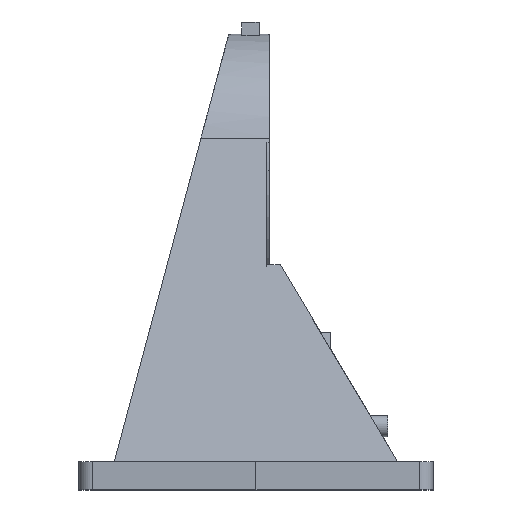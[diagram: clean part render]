
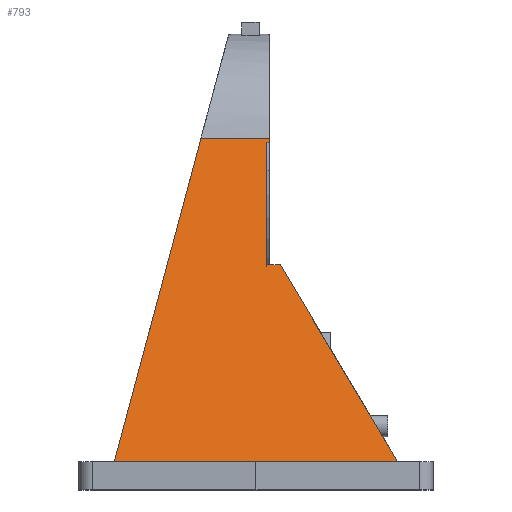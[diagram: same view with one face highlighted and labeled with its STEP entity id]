
A CAD part, front view. The second image highlights one B-rep face of the part: STEP entity #793.
In plain terms, the highlighted planar face has unit normal (0, -0.971, 0.241).
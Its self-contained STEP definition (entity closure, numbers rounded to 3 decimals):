
#33 = EDGE_CURVE ( 'NONE', #34, #85, #1716, .T. ) ;
#34 = VERTEX_POINT ( 'NONE', #1712 ) ;
#59 = EDGE_CURVE ( 'NONE', #137, #1336, #1722, .T. ) ;
#84 = EDGE_CURVE ( 'NONE', #85, #133, #1811, .T. ) ;
#85 = VERTEX_POINT ( 'NONE', #1807 ) ;
#133 = VERTEX_POINT ( 'NONE', #1920 ) ;
#137 = VERTEX_POINT ( 'NONE', #1915 ) ;
#139 = EDGE_CURVE ( 'NONE', #133, #137, #1914, .T. ) ;
#778 = VERTEX_POINT ( 'NONE', #4305 ) ;
#779 = ORIENTED_EDGE ( 'NONE', *, *, #780, .T. ) ;
#780 = EDGE_CURVE ( 'NONE', #778, #34, #4355, .T. ) ;
#787 = VERTEX_POINT ( 'NONE', #4382 ) ;
#789 = EDGE_CURVE ( 'NONE', #1429, #787, #4380, .T. ) ;
#793 = ADVANCED_FACE ( 'NONE', ( #4376 ), #4361, .T. ) ;
#794 = EDGE_LOOP ( 'NONE', ( #795, #855, #856, #857, #858, #859, #860, #779 ) ) ;
#795 = ORIENTED_EDGE ( 'NONE', *, *, #33, .T. ) ;
#855 = ORIENTED_EDGE ( 'NONE', *, *, #84, .T. ) ;
#856 = ORIENTED_EDGE ( 'NONE', *, *, #139, .T. ) ;
#857 = ORIENTED_EDGE ( 'NONE', *, *, #59, .T. ) ;
#858 = ORIENTED_EDGE ( 'NONE', *, *, #1431, .T. ) ;
#859 = ORIENTED_EDGE ( 'NONE', *, *, #789, .T. ) ;
#860 = ORIENTED_EDGE ( 'NONE', *, *, #861, .T. ) ;
#861 = EDGE_CURVE ( 'NONE', #787, #778, #4510, .T. ) ;
#1336 = VERTEX_POINT ( 'NONE', #5770 ) ;
#1429 = VERTEX_POINT ( 'NONE', #6063 ) ;
#1431 = EDGE_CURVE ( 'NONE', #1336, #1429, #6062, .T. ) ;
#1712 = CARTESIAN_POINT ( 'NONE',  ( -416.23, -231.152, -132.358 ) ) ;
#1713 = DIRECTION ( 'NONE',  ( -1., 0., 0. ) ) ;
#1714 = VECTOR ( 'NONE', #1713, 1000. ) ;
#1715 = CARTESIAN_POINT ( 'NONE',  ( -245.05, -231.152, -132.358 ) ) ;
#1716 = LINE ( 'NONE', #1715, #1714 ) ;
#1719 = DIRECTION ( 'NONE',  ( 0., 0.241, 0.971 ) ) ;
#1720 = VECTOR ( 'NONE', #1719, 1000. ) ;
#1721 = CARTESIAN_POINT ( 'NONE',  ( -431.5, -300., -410. ) ) ;
#1722 = LINE ( 'NONE', #1721, #1720 ) ;
#1807 = CARTESIAN_POINT ( 'NONE',  ( -435.5, -231.152, -132.358 ) ) ;
#1808 = DIRECTION ( 'NONE',  ( 0., 0.241, 0.971 ) ) ;
#1809 = VECTOR ( 'NONE', #1808, 1000. ) ;
#1810 = CARTESIAN_POINT ( 'NONE',  ( -435.5, -300., -410. ) ) ;
#1811 = LINE ( 'NONE', #1810, #1809 ) ;
#1911 = DIRECTION ( 'NONE',  ( 1., 0., 0. ) ) ;
#1912 = VECTOR ( 'NONE', #1911, 1000. ) ;
#1913 = CARTESIAN_POINT ( 'NONE',  ( -245.05, -188.537, 39.492 ) ) ;
#1914 = LINE ( 'NONE', #1913, #1912 ) ;
#1915 = CARTESIAN_POINT ( 'NONE',  ( -431.5, -188.537, 39.492 ) ) ;
#1920 = CARTESIAN_POINT ( 'NONE',  ( -435.5, -188.537, 39.492 ) ) ;
#4305 = CARTESIAN_POINT ( 'NONE',  ( -250.881, -300., -410. ) ) ;
#4352 = DIRECTION ( 'NONE',  ( -0.5, 0.208, 0.84 ) ) ;
#4353 = VECTOR ( 'NONE', #4352, 1000. ) ;
#4354 = CARTESIAN_POINT ( 'NONE',  ( -250.881, -300., -410. ) ) ;
#4355 = LINE ( 'NONE', #4354, #4353 ) ;
#4357 = DIRECTION ( 'NONE',  ( 0., -0.241, -0.971 ) ) ;
#4358 = DIRECTION ( 'NONE',  ( 0., -0.971, 0.241 ) ) ;
#4359 = CARTESIAN_POINT ( 'NONE',  ( -245.05, -300., -410. ) ) ;
#4360 = AXIS2_PLACEMENT_3D ( 'NONE', #4359, #4358, #4357 ) ;
#4361 = PLANE ( 'NONE',  #4360 ) ;
#4376 = FACE_OUTER_BOUND ( 'NONE', #794, .T. ) ;
#4377 = DIRECTION ( 'NONE',  ( -0.252, -0.233, -0.939 ) ) ;
#4378 = VECTOR ( 'NONE', #4377, 1000. ) ;
#4379 = CARTESIAN_POINT ( 'NONE',  ( -528.055, -186.841, 46.332 ) ) ;
#4380 = LINE ( 'NONE', #4379, #4378 ) ;
#4382 = CARTESIAN_POINT ( 'NONE',  ( -650.329, -300., -410. ) ) ;
#4507 = DIRECTION ( 'NONE',  ( 1., 0., 0. ) ) ;
#4508 = VECTOR ( 'NONE', #4507, 1000. ) ;
#4509 = CARTESIAN_POINT ( 'NONE',  ( -680.5, -300., -410. ) ) ;
#4510 = LINE ( 'NONE', #4509, #4508 ) ;
#5770 = CARTESIAN_POINT ( 'NONE',  ( -431.5, -186.841, 46.332 ) ) ;
#6053 = DIRECTION ( 'NONE',  ( -1., 0., 0. ) ) ;
#6054 = VECTOR ( 'NONE', #6053, 1000. ) ;
#6055 = CARTESIAN_POINT ( 'NONE',  ( -245.05, -186.841, 46.332 ) ) ;
#6062 = LINE ( 'NONE', #6055, #6054 ) ;
#6063 = CARTESIAN_POINT ( 'NONE',  ( -528.055, -186.841, 46.332 ) ) ;
